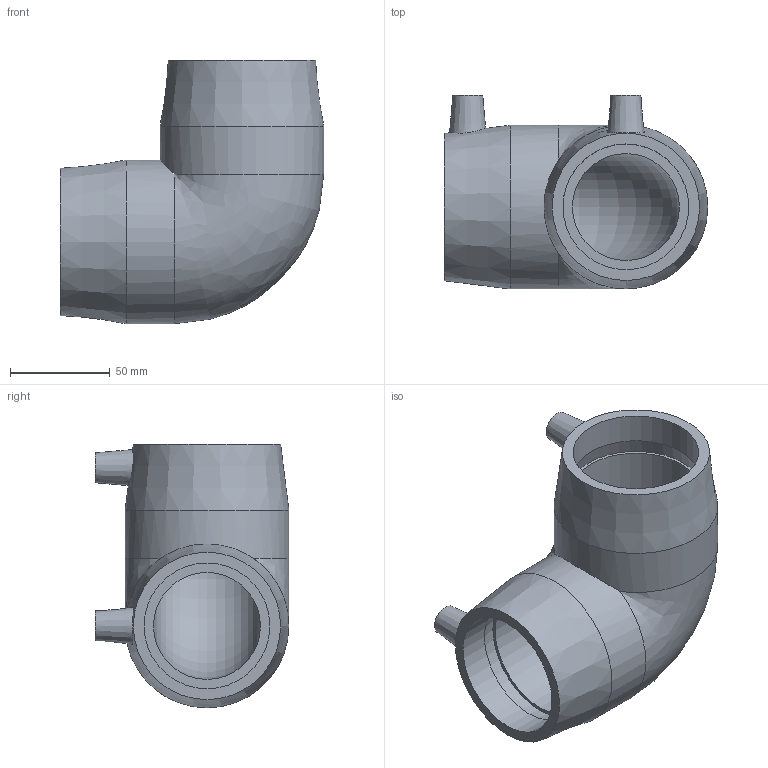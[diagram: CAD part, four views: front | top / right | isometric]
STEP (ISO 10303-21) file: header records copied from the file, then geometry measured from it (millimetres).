
FILE_DESCRIPTION(/* description */ ('PLASSON 90° ELBOW 63'),/* implementation_level */ '2;1');
FILE_NAME(/* name */ '490504063.stp',/* time_stamp */ '2026-03-22T13:14:58+02:00',/* author */ ('KIM'),/* organization */ (''),/* preprocessor_version */ 'ST-DEVELOPER v20.1',/* originating_system */ 'Autodesk Inventor 2026',/* authorisation */ '');
FILE_SCHEMA (('AUTOMOTIVE_DESIGN { 1 0 10303 214 3 1 1 }'));
Length unit declared in the file: millimetre
Products named in the file (1): 490504063
Bounding box: 132 x 97 x 132 mm (x, y, z)
Volume: 380970.8 mm3; surface area: 81613.4 mm2
Topology: 1 solids, 1 shells, 30 faces, 54 edges, 34 vertices
Faces by surface type: plane 12, cylinder 10, cone 6, bspline 1, torus 1
Full cylindrical faces by diameter (mm): 4 x2, 10 x2, 63 x4, 82 x2
Entity records: 861 total; most frequent: CARTESIAN_POINT 211, DIRECTION 140, ORIENTED_EDGE 104, AXIS2_PLACEMENT_3D 62, EDGE_CURVE 52, EDGE_LOOP 42, VERTEX_POINT 34, CIRCLE 31
